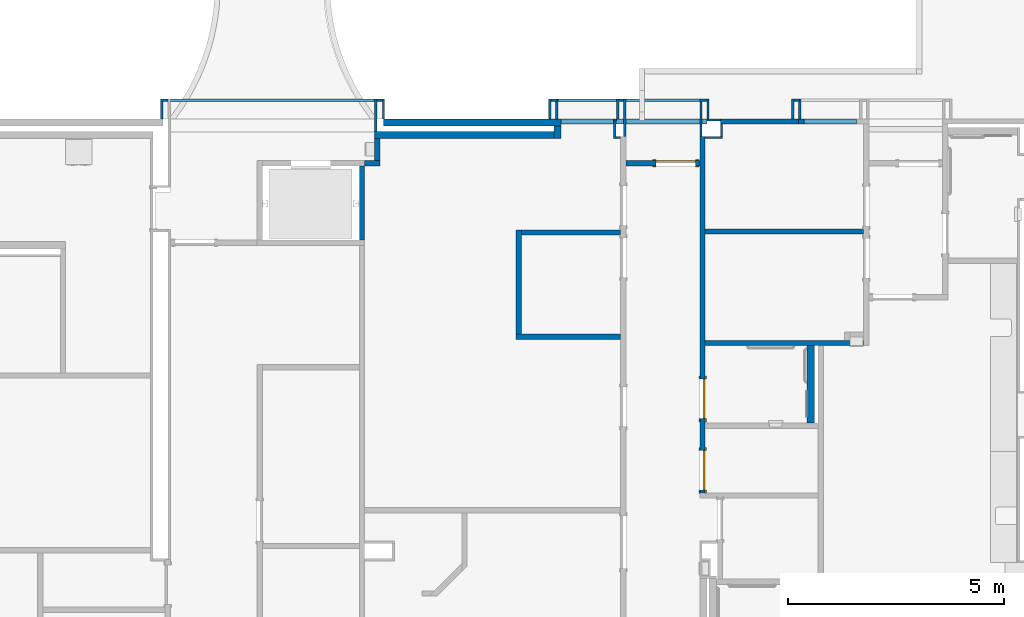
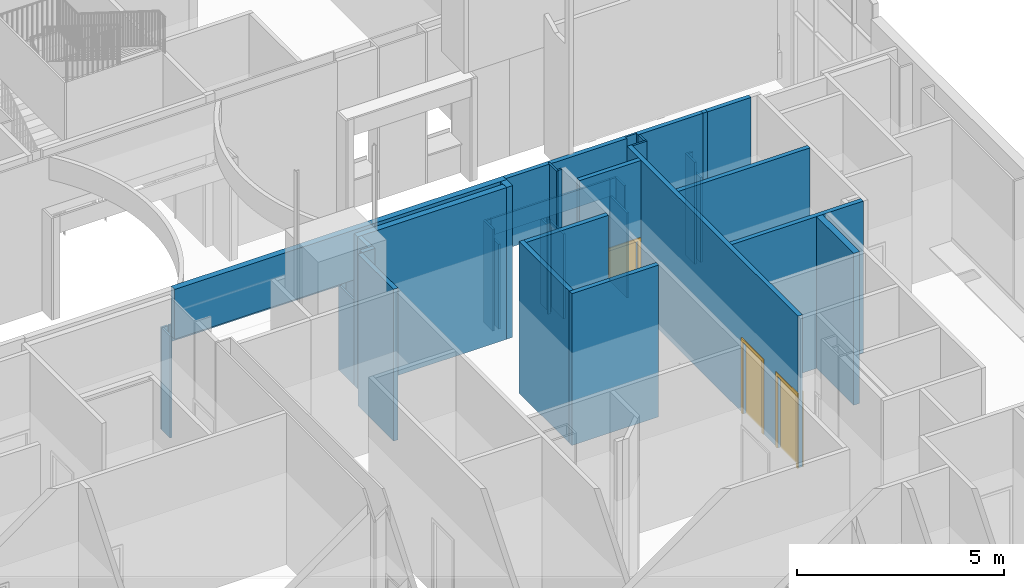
# One storey, part 36 of 82: 43 walls, 3 doors, 4 openings.
"""IFC2X3 building model written with IfcOpenShell, lengths in metres."""

from ifc_helpers import new_model, entity, si_unit, converted_unit, frame, frame_2d, origin, origin_2d_with_axis, place, context, project, spatial, polyline, rectangle, outline, extrude, clip, halfspace, source, transform, mapped, material, layer, layer_set, layer_usage, type_object, type_shapes, element, fill, save


model = new_model("IFC2X3")

# Units and contexts
model_context = context("Model", 3, precision=1e-09, world=origin())
plan_context = context("Plan", 3, precision=1e-09, world=origin())
ifc_project = project(units=[si_unit("LENGTHUNIT", "METRE"), si_unit("AREAUNIT", "SQUARE_METRE"), si_unit("VOLUMEUNIT", "CUBIC_METRE"), converted_unit("PLANEANGLEUNIT", "DEGREE", entity("IfcRatioMeasure", 0.01745329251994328), si_unit("PLANEANGLEUNIT", "RADIAN"), dimensions=[0, 0, 0, 0, 0, 0, 0]), si_unit("TIMEUNIT", "SECOND")], contexts=[model_context, plan_context])

# Site, building, storey
site_placement = place(None, origin())
site = spatial("IfcSite", under=ifc_project, at=site_placement, Name="Default", CompositionType="ELEMENT")
building_placement = place(site_placement, origin())
building = spatial("IfcBuilding", under=site, at=building_placement, CompositionType="ELEMENT")
storey_placement = place(building_placement, origin())
storey = spatial("IfcBuildingStorey", under=building, at=storey_placement, Name="First Floor", CompositionType="ELEMENT", Elevation=-3.531500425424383e-13)

# Wall, openings, doors
ifc_material_1 = material(Name="Plasterboard")
ifc_layer_1 = layer(ifc_material_1, 0.016)
ifc_material_2 = material(Name="Metal - Stud Layer")
ifc_layer_2 = layer(ifc_material_2, 0.092)
ifc_layer_3 = layer(ifc_material_1, 0.016)
ifc_layer_set_1 = layer_set([ifc_layer_1, ifc_layer_2, ifc_layer_3], Name="Basic Wall:Interior - Partition (92mm Stud)")
ifc_layer_usage_1 = layer_usage(ifc_layer_set_1, "AXIS2", "NEGATIVE", 0.062)
wall_1_placement = place(storey_placement, frame((-7.517975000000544, 19.95399999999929, 0.0), z_axis=(0.0, 0.0, 1.0), x_axis=(0.0, 1.0, 0.0)))
wall_1 = element("IfcWallStandardCase", 1, at=wall_1_placement, inside=storey, material=ifc_layer_usage_1, Name="Basic Wall:Interior - Partition (92mm Stud)", ObjectType="Basic Wall:Interior - Partition (92mm Stud)", context=model_context, shape_type="SweptSolid", body=[
    extrude(rectangle(XDim=8.250000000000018, YDim=0.124, at=frame_2d((4.125000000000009, 0.0), x_axis=(-1.0, 0.0))), origin(), (0.0, 0.0, 1.0), 4.46800000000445),
])
opening_1_placement = place(wall_1_placement, frame((2.630999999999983, 0.06200000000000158, 0.0)))
opening_1 = element("IfcOpeningElement", 2, at=opening_1_placement, cuts=wall_1, Name="M_Single-Flush:0915 x 2134mm:0915 x 2134mm:1", ObjectType="Opening", context=model_context, shape_type="SweptSolid", body=[
    extrude(rectangle(XDim=0.9149999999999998, YDim=2.134, at=frame_2d((1.067, 0.4575), x_axis=(0.0, 1.0))), frame((0.0, 0.0, 0.0), z_axis=(0.0, -1.0, 0.0), x_axis=(0.0, 0.0, 1.0)), (0.0, 0.0, 1.0), 0.124),
])
opening_2_placement = place(wall_1_placement, frame((0.9749999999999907, 0.06200000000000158, 0.0)))
opening_2 = element("IfcOpeningElement", 3, at=opening_2_placement, cuts=wall_1, Name="M_Single-Flush:0915 x 2134mm:0915 x 2134mm:1", ObjectType="Opening", context=model_context, shape_type="SweptSolid", body=[
    extrude(rectangle(XDim=0.9149999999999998, YDim=2.134, at=frame_2d((1.067, 0.4575), x_axis=(0.0, 1.0))), frame((0.0, 0.0, 0.0), z_axis=(0.0, -1.0, 0.0), x_axis=(0.0, 0.0, 1.0)), (0.0, 0.0, 1.0), 0.124),
])
door_style = type_object("IfcDoorStyle", Name="0915 x 2134mm", ConstructionType="NOTDEFINED", OperationType="SINGLE_SWING_RIGHT", ParameterTakesPrecedence=False, Sizeable=False)
shared_shape = source(origin(), model_context, "Body", "SweptSolid", [
    extrude(outline(polyline([(-0.5335, -1.123999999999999), (0.5334999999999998, -1.123999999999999), (0.5334999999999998, 1.086), (0.4574999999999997, 1.086), (0.4574999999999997, -1.048000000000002), (-0.4574999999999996, -1.048000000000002), (-0.4574999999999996, 1.086), (-0.5335, 1.086), (-0.5335, -1.123999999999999)])), frame((0.4575000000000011, 0.1239999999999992, 1.086), z_axis=(0.0, 1.0, 0.0), x_axis=(1.0, 0.0, 0.0)), (0.0, 0.0, 1.0), 0.02499999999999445),
    extrude(outline(polyline([(-1.123999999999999, -0.5334999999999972), (1.085999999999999, -0.5334999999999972), (1.085999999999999, -0.4575000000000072), (-1.048, -0.4575000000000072), (-1.048, 0.4575000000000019), (1.085999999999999, 0.4575000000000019), (1.085999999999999, 0.5335000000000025), (-1.123999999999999, 0.5335000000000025), (-1.123999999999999, -0.5334999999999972)])), frame((0.4575000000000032, -0.02500000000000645, 1.085999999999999), z_axis=(0.0, 1.0, 0.0), x_axis=(0.0, 0.0, -1.0)), (0.0, 0.0, 1.0), 0.02500000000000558),
    extrude(rectangle(XDim=0.051, YDim=0.9149999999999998, at=origin_2d_with_axis()), frame((0.4575000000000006, 0.09849999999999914, 0.0), z_axis=(0.0, 0.0, 1.0), x_axis=(0.0, 1.0, 0.0)), (0.0, 0.0, 1.0), 2.133999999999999),
])
type_shapes(door_style, [shared_shape])
door_1_placement = place(opening_2_placement, frame((0.0, 0.0, 0.0), z_axis=(0.0, 0.0, 1.0), x_axis=(-1.0, 0.0, 0.0)))
door_1 = element("IfcDoor", 4, at=door_1_placement, inside=storey, type_object=door_style, Name="M_Single-Flush:0915 x 2134mm:0915 x 2134mm", ObjectType="0915 x 2134mm", OverallHeight=2.134, OverallWidth=0.9149999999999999, context=model_context, shape_type="MappedRepresentation", body=[
    mapped(shared_shape, transform((0.0, 0.0, 0.0), scale=1.0)),
])
fill(opening_2, door_1)
door_2_placement = place(opening_1_placement, frame((0.0, 0.0, 0.0), z_axis=(0.0, 0.0, 1.0), x_axis=(-1.0, 0.0, 0.0)))
door_2 = element("IfcDoor", 5, at=door_2_placement, inside=storey, type_object=door_style, Name="M_Single-Flush:0915 x 2134mm:0915 x 2134mm", ObjectType="0915 x 2134mm", OverallHeight=2.134, OverallWidth=0.9149999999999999, context=model_context, shape_type="MappedRepresentation", body=[
    mapped(shared_shape, transform((0.0, 0.0, 0.0), scale=1.0)),
])
fill(opening_1, door_2)

# Wall, opening
ifc_layer_4 = layer(ifc_material_2, 0.152)
ifc_layer_5 = layer(ifc_material_1, 0.016)
ifc_layer_set_2 = layer_set([ifc_layer_4, ifc_layer_5], Name="Basic Wall:Interior - Furring (152 mm Stud)")
ifc_layer_usage_2 = layer_usage(ifc_layer_set_2, "AXIS2", "POSITIVE", -0.08399999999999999)
wall_2_placement = place(storey_placement, frame((-20.03300000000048, 28.52599999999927, 0.0)))
wall_2 = element("IfcWallStandardCase", 6, at=wall_2_placement, inside=storey, material=ifc_layer_usage_2, Name="Basic Wall:Interior - Furring (152 mm Stud)", ObjectType="Basic Wall:Interior - Furring (152 mm Stud)", context=model_context, shape_type="Clipping", body=[
    clip(extrude(rectangle(XDim=9.241151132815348, YDim=0.1679999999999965, at=frame_2d((4.620575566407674, 0.0), x_axis=(-1.0, 0.0))), origin(), (0.0, 0.0, 1.0), 4.468000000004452), halfspace(frame((5.130999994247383, 0.0, 0.0), z_axis=(-0.5047390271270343, 0.0, -0.8632719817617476), x_axis=(0.0, -1.0, 0.0)), False)),
])
opening_3_placement = place(wall_2_placement, frame((3.420666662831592, 0.0839999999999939, 2.0)))
element("IfcOpeningElement", 7, at=opening_3_placement, cuts=wall_2, Name="Basic Wall:Interior - Furring (152 mm Stud):2", ObjectType="Opening", context=model_context, shape_type="SweptSolid", body=[
    extrude(outline(polyline([(-2.0, -1.710333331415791), (1.0, -1.710333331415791), (1.0, 3.420666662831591), (-2.0, -1.710333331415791)])), frame((0.0, 0.0, 0.0), z_axis=(0.0, -1.0, 0.0), x_axis=(0.0, 0.0, 1.0)), (0.0, 0.0, 1.0), 0.168),
])

# Walls
wall_3_placement = place(storey_placement, frame((-3.793975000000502, 23.42199999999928, 0.0), z_axis=(0.0, 0.0, 1.0), x_axis=(-1.0, 0.0, 0.0)))
element("IfcWallStandardCase", 8, at=wall_3_placement, inside=storey, material=ifc_layer_usage_1, Name="Basic Wall:Interior - Partition (92mm Stud)", ObjectType="Basic Wall:Interior - Partition (92mm Stud)", context=model_context, shape_type="SweptSolid", body=[
    extrude(rectangle(XDim=3.662000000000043, YDim=0.1239999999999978, at=frame_2d((1.831000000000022, 0.0), x_axis=(-1.0, 0.0))), origin(), (0.0, 0.0, 1.0), 4.46800000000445),
])
wall_4_placement = place(storey_placement, frame((-5.270722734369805, 28.54799999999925, 0.0), z_axis=(0.0, 0.0, 1.0), x_axis=(-1.0, 0.0, 0.0)))
element("IfcWallStandardCase", 9, at=wall_4_placement, inside=storey, material=ifc_layer_usage_1, Name="Basic Wall:Interior - Partition (92mm Stud)", ObjectType="Basic Wall:Interior - Partition (92mm Stud)", context=model_context, shape_type="SweptSolid", body=[
    extrude(rectangle(XDim=1.806277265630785, YDim=0.1240000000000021, at=frame_2d((0.9301386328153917, 0.0), x_axis=(-1.0, 0.0))), origin(), (0.0, 0.0, 1.0), 4.468000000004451),
])
ifc_material_3 = material(Name="Type-X Plasterboard")
ifc_layer_6 = layer(ifc_material_3, 0.016)
ifc_layer_7 = layer(ifc_material_2, 0.092)
ifc_layer_8 = layer(ifc_material_3, 0.016)
ifc_layer_set_3 = layer_set([ifc_layer_6, ifc_layer_7, ifc_layer_8], Name="Basic Wall:Interior - Rated 1-HR (92mm Stud)")
ifc_layer_usage_3 = layer_usage(ifc_layer_set_3, "AXIS2", "NEGATIVE", 0.06200000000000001)
wall_5_placement = place(storey_placement, frame((-15.39800000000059, 25.80739999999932, 0.0), z_axis=(0.0, 0.0, 1.0), x_axis=(0.0, 1.0, 0.0)))
element("IfcWallStandardCase", 10, at=wall_5_placement, inside=storey, material=ifc_layer_usage_3, Name="Basic Wall:Interior - Rated 1-HR (92mm Stud)", ObjectType="Basic Wall:Interior - Rated 1-HR (92mm Stud)", context=model_context, shape_type="SweptSolid", body=[
    extrude(rectangle(XDim=1.714499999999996, YDim=0.1240000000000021, at=frame_2d((0.8572499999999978, 0.0), x_axis=(-1.0, 0.0))), origin(), (0.0, 0.0, 1.0), 4.46800000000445),
])
ifc_layer_9 = layer(ifc_material_2, 0.038)
ifc_layer_10 = layer(ifc_material_1, 0.016)
ifc_layer_set_4 = layer_set([ifc_layer_9, ifc_layer_10], Name="Basic Wall:Interior - Furring (38 mm Stud)")
ifc_layer_usage_4 = layer_usage(ifc_layer_set_4, "AXIS2", "POSITIVE", -0.027)
wall_6_placement = place(storey_placement, frame((-7.418975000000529, 28.58299999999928, 0.0)))
element("IfcWallStandardCase", 11, at=wall_6_placement, inside=storey, material=ifc_layer_usage_4, Name="Basic Wall:Interior - Furring (38 mm Stud)", ObjectType="Basic Wall:Interior - Furring (38 mm Stud)", context=model_context, shape_type="SweptSolid", body=[
    extrude(rectangle(XDim=0.3149749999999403, YDim=0.05400000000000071, at=frame_2d((0.1574874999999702, 0.0), x_axis=(-1.0, 0.0))), origin(), (0.0, 0.0, 1.0), 4.46800000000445),
])
wall_7_placement = place(storey_placement, frame((-19.85700000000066, 29.04299999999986, 2.5)))
element("IfcWallStandardCase", 12, at=wall_7_placement, inside=storey, material=ifc_layer_usage_4, Name="Basic Wall:Interior - Furring (38 mm Stud)", ObjectType="Basic Wall:Interior - Furring (38 mm Stud)", context=model_context, shape_type="SweptSolid", body=[
    extrude(rectangle(XDim=4.77399999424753, YDim=0.05399999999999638, at=frame_2d((2.386999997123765, 0.0), x_axis=(-1.0, 0.0))), origin(), (0.0, 0.0, 1.0), 0.5),
])
wall_8_placement = place(storey_placement, frame((-7.391975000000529, 28.54799999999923, 2.4), z_axis=(0.0, 0.0, 1.0), x_axis=(-1.0, 0.0, 0.0)))
element("IfcWallStandardCase", 13, at=wall_8_placement, inside=storey, material=ifc_layer_usage_1, Name="Basic Wall:Interior - Partition (92mm Stud)", ObjectType="Basic Wall:Interior - Partition (92mm Stud)", context=model_context, shape_type="SweptSolid", body=[
    extrude(rectangle(XDim=3.372873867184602, YDim=0.1240000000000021, at=frame_2d((1.713436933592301, 0.0), x_axis=(-1.0, 0.0))), origin(), (0.0, 0.0, 1.0), 2.06800000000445),
])
wall_9_placement = place(storey_placement, frame((-10.89072273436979, 29.06999999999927, 0.0), z_axis=(0.0, 0.0, 1.0), x_axis=(0.0, -1.0, 0.0)))
element("IfcWallStandardCase", 14, at=wall_9_placement, inside=storey, material=ifc_layer_usage_4, Name="Basic Wall:Interior - Furring (38 mm Stud)", ObjectType="Basic Wall:Interior - Furring (38 mm Stud)", context=model_context, shape_type="SweptSolid", body=[
    extrude(rectangle(XDim=0.4600000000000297, YDim=0.05400000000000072, at=frame_2d((0.2300000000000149, 0.0), x_axis=(-1.0, 0.0))), origin(), (0.0, 0.0, 1.0), 2.5),
])
wall_10_placement = place(storey_placement, frame((-15.08300000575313, 28.31799999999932, 0.0), z_axis=(0.0, 0.0, 1.0), x_axis=(0.0, 1.0, 0.0)))
element("IfcWallStandardCase", 15, at=wall_10_placement, inside=storey, material=ifc_layer_usage_4, Name="Basic Wall:Interior - Furring (38 mm Stud)", ObjectType="Basic Wall:Interior - Furring (38 mm Stud)", context=model_context, shape_type="SweptSolid", body=[
    extrude(rectangle(XDim=0.7519999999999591, YDim=0.05400000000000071, at=frame_2d((0.3759999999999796, 0.0), x_axis=(-1.0, 0.0))), origin(), (0.0, 0.0, 1.0), 2.5),
])
ifc_layer_usage_5 = layer_usage(ifc_layer_set_4, "AXIS2", "NEGATIVE", 0.027)
wall_11_placement = place(storey_placement, frame((-7.552975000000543, 29.01599999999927, 0.0), z_axis=(0.0, 0.0, 1.0), x_axis=(0.0, -1.0, 0.0)))
element("IfcWallStandardCase", 16, at=wall_11_placement, inside=storey, material=ifc_layer_usage_5, Name="Basic Wall:Interior - Furring (38 mm Stud)", ObjectType="Basic Wall:Interior - Furring (38 mm Stud)", context=model_context, shape_type="SweptSolid", body=[
    extrude(rectangle(XDim=0.8119999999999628, YDim=0.05400000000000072, at=frame_2d((0.4059999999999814, 0.0), x_axis=(-1.0, 0.0))), origin(), (0.0, 0.0, 1.0), 2.5),
])
wall_12_placement = place(storey_placement, frame((-10.89072273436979, 29.04299999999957, 2.5)))
element("IfcWallStandardCase", 17, at=wall_12_placement, inside=storey, material=ifc_layer_usage_4, Name="Basic Wall:Interior - Furring (38 mm Stud)", ObjectType="Basic Wall:Interior - Furring (38 mm Stud)", context=model_context, shape_type="SweptSolid", body=[
    extrude(rectangle(XDim=3.337747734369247, YDim=0.05399999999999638, at=frame_2d((1.668873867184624, 0.0), x_axis=(-1.0, 0.0))), origin(), (0.0, 0.0, 1.0), 0.5),
])
wall_13_placement = place(storey_placement, frame((-15.04797500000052, 27.64589999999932, 0.0), z_axis=(0.0, 0.0, 1.0), x_axis=(0.0, 1.0, 0.0)))
element("IfcWallStandardCase", 18, at=wall_13_placement, inside=storey, material=ifc_layer_usage_1, Name="Basic Wall:Interior - Partition (92mm Stud)", ObjectType="Basic Wall:Interior - Partition (92mm Stud)", context=model_context, shape_type="SweptSolid", body=[
    extrude(rectangle(XDim=0.5041000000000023, YDim=0.1240000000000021, at=frame_2d((0.2520500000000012, 0.0), x_axis=(-1.0, 0.0))), origin(), (0.0, 0.0, 1.0), 4.46800000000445),
])
wall_14_placement = place(storey_placement, frame((-15.33600000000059, 27.58389999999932, 0.0)))
element("IfcWallStandardCase", 19, at=wall_14_placement, inside=storey, material=ifc_layer_usage_1, Name="Basic Wall:Interior - Partition (92mm Stud)", ObjectType="Basic Wall:Interior - Partition (92mm Stud)", context=model_context, shape_type="SweptSolid", body=[
    extrude(rectangle(XDim=0.3500250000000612, YDim=0.1239999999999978, at=frame_2d((0.1750125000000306, 0.0), x_axis=(-1.0, 0.0))), origin(), (0.0, 0.0, 1.0), 4.46800000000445),
])
wall_15_placement = place(storey_placement, frame((-10.87584886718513, 28.44199999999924, 0.0), z_axis=(0.0, 0.0, 1.0), x_axis=(0.0, -1.0, 0.0)))
element("IfcWallStandardCase", 20, at=wall_15_placement, inside=storey, material=ifc_layer_usage_2, Name="Basic Wall:Interior - Furring (152 mm Stud)", ObjectType="Basic Wall:Interior - Furring (152 mm Stud)", context=model_context, shape_type="SweptSolid", body=[
    extrude(rectangle(XDim=0.2919999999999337, YDim=0.1680000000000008, at=frame_2d((0.1459999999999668, 0.0), x_axis=(-1.0, 0.0))), origin(), (0.0, 0.0, 1.0), 4.46800000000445),
])
wall_16_placement = place(storey_placement, frame((-5.270722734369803, 29.06999999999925, 0.0), z_axis=(0.0, 0.0, 1.0), x_axis=(0.0, -1.0, 0.0)))
element("IfcWallStandardCase", 21, at=wall_16_placement, inside=storey, material=ifc_layer_usage_4, Name="Basic Wall:Interior - Furring (38 mm Stud)", ObjectType="Basic Wall:Interior - Furring (38 mm Stud)", context=model_context, shape_type="SweptSolid", body=[
    extrude(rectangle(XDim=0.4600000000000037, YDim=0.05400000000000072, at=frame_2d((0.2300000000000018, 0.0), x_axis=(-1.0, 0.0))), origin(), (0.0, 0.0, 1.0), 2.5),
])
wall_17_placement = place(storey_placement, frame((-5.404722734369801, 29.04299999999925, 0.0)))
element("IfcWallStandardCase", 22, at=wall_17_placement, inside=storey, material=ifc_layer_usage_4, Name="Basic Wall:Interior - Furring (38 mm Stud)", ObjectType="Basic Wall:Interior - Furring (38 mm Stud)", context=model_context, shape_type="SweptSolid", body=[
    extrude(rectangle(XDim=0.1339999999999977, YDim=0.05399999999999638, at=frame_2d((0.06699999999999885, 0.0), x_axis=(-1.0, 0.0))), origin(), (0.0, 0.0, 1.0), 3.0),
])
wall_18_placement = place(storey_placement, frame((-7.07700000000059, 28.20399999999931, 0.0), z_axis=(0.0, 0.0, 1.0), x_axis=(0.0, 1.0, 0.0)))
element("IfcWallStandardCase", 23, at=wall_18_placement, inside=storey, material=ifc_layer_usage_5, Name="Basic Wall:Interior - Furring (38 mm Stud)", ObjectType="Basic Wall:Interior - Furring (38 mm Stud)", context=model_context, shape_type="SweptSolid", body=[
    extrude(rectangle(XDim=0.2819999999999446, YDim=0.05400000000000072, at=frame_2d((0.1409999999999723, 0.0), x_axis=(-1.0, 0.0))), origin(), (0.0, 0.0, 1.0), 4.46800000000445),
])

# Wall, opening, door
wall_19_placement = place(storey_placement, frame((-7.579975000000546, 27.58199999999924, 0.0), z_axis=(0.0, 0.0, 1.0), x_axis=(-1.0, 0.0, 0.0)))
wall_19 = element("IfcWallStandardCase", 24, at=wall_19_placement, inside=storey, material=ifc_layer_usage_1, Name="Basic Wall:Interior - Partition (92mm Stud)", ObjectType="Basic Wall:Interior - Partition (92mm Stud)", context=model_context, shape_type="SweptSolid", body=[
    extrude(rectangle(XDim=1.709999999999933, YDim=0.1239999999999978, at=frame_2d((0.8549999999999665, 0.0), x_axis=(-1.0, 0.0))), origin(), (0.0, 0.0, 1.0), 4.46800000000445),
])
opening_4_placement = place(wall_19_placement, frame((1.015000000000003, 0.0619999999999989, 0.0)))
opening_4 = element("IfcOpeningElement", 25, at=opening_4_placement, cuts=wall_19, Name="M_Single-Flush:0915 x 2134mm:0915 x 2134mm:1", ObjectType="Opening", context=model_context, shape_type="SweptSolid", body=[
    extrude(rectangle(XDim=0.9150000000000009, YDim=2.134, at=frame_2d((1.067, 0.4575), x_axis=(0.0, 1.0))), frame((0.0, 0.0, 0.0), z_axis=(0.0, -1.0, 0.0), x_axis=(0.0, 0.0, 1.0)), (0.0, 0.0, 1.0), 0.124),
])
door_3_placement = place(opening_4_placement, frame((0.0, 0.0, 0.0), z_axis=(0.0, 0.0, 1.0), x_axis=(-1.0, 0.0, 0.0)))
door_3 = element("IfcDoor", 26, at=door_3_placement, inside=storey, type_object=door_style, Name="M_Single-Flush:0915 x 2134mm:0915 x 2134mm", ObjectType="0915 x 2134mm", OverallHeight=2.134, OverallWidth=0.9149999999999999, context=model_context, shape_type="MappedRepresentation", body=[
    mapped(shared_shape, transform((0.0, 0.0, 0.0), scale=1.0)),
])
fill(opening_4, door_3)

# Walls
wall_20_placement = place(storey_placement, frame((-7.455975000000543, 28.17699999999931, 0.0)))
element("IfcWallStandardCase", 27, at=wall_20_placement, inside=storey, material=ifc_layer_usage_5, Name="Basic Wall:Interior - Furring (38 mm Stud)", ObjectType="Basic Wall:Interior - Furring (38 mm Stud)", context=model_context, shape_type="SweptSolid", body=[
    extrude(rectangle(XDim=0.4059749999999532, YDim=0.05399999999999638, at=frame_2d((0.2029874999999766, 0.0), x_axis=(-1.0, 0.0))), origin(), (0.0, 0.0, 1.0), 4.46800000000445),
])
wall_21_placement = place(storey_placement, frame((-7.391975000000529, 28.60999999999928, 0.0), z_axis=(0.0, 0.0, 1.0), x_axis=(0.0, 1.0, 0.0)))
element("IfcWallStandardCase", 28, at=wall_21_placement, inside=storey, material=ifc_layer_usage_5, Name="Basic Wall:Interior - Furring (38 mm Stud)", ObjectType="Basic Wall:Interior - Furring (38 mm Stud)", context=model_context, shape_type="SweptSolid", body=[
    extrude(rectangle(XDim=0.4599999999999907, YDim=0.05400000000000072, at=frame_2d((0.2299999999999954, 0.0), x_axis=(-1.0, 0.0))), origin(), (0.0, 0.0, 1.0), 3.0),
])
wall_22_placement = place(storey_placement, frame((-15.08300000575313, 29.04299999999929, 0.0)))
element("IfcWallStandardCase", 29, at=wall_22_placement, inside=storey, material=ifc_layer_usage_4, Name="Basic Wall:Interior - Furring (38 mm Stud)", ObjectType="Basic Wall:Interior - Furring (38 mm Stud)", context=model_context, shape_type="SweptSolid", body=[
    extrude(rectangle(XDim=0.1270000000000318, YDim=0.05400000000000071, at=frame_2d((0.09050000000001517, 0.0), x_axis=(-1.0, 0.0))), origin(), (0.0, 0.0, 1.0), 3.0),
])
wall_23_placement = place(storey_placement, frame((-5.297722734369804, 28.54799999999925, 0.0)))
element("IfcWallStandardCase", 30, at=wall_23_placement, inside=storey, material=ifc_layer_usage_1, Name="Basic Wall:Interior - Partition (92mm Stud)", ObjectType="Basic Wall:Interior - Partition (92mm Stud)", context=model_context, shape_type="SweptSolid", body=[
    extrude(rectangle(XDim=0.1258700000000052, YDim=0.1240000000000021, at=frame_2d((0.06293500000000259, 0.0), x_axis=(-1.0, 0.0))), origin(), (0.0, 0.0, 1.0), 4.46800000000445),
])
wall_24_placement = place(storey_placement, frame((-7.418975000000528, 29.04299999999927, 0.0), z_axis=(0.0, 0.0, 1.0), x_axis=(-1.0, 0.0, 0.0)))
element("IfcWallStandardCase", 31, at=wall_24_placement, inside=storey, material=ifc_layer_usage_5, Name="Basic Wall:Interior - Furring (38 mm Stud)", ObjectType="Basic Wall:Interior - Furring (38 mm Stud)", context=model_context, shape_type="SweptSolid", body=[
    extrude(rectangle(XDim=0.1610000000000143, YDim=0.05399999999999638, at=frame_2d((0.08050000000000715, 0.0), x_axis=(-1.0, 0.0))), origin(), (0.0, 0.0, 1.0), 3.0),
])
wall_25_placement = place(storey_placement, frame((-19.85700000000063, 29.04299999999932, 0.0), z_axis=(0.0, 0.0, 1.0), x_axis=(-1.0, 0.0, 0.0)))
element("IfcWallStandardCase", 32, at=wall_25_placement, inside=storey, material=ifc_layer_usage_5, Name="Basic Wall:Interior - Furring (38 mm Stud)", ObjectType="Basic Wall:Interior - Furring (38 mm Stud)", context=model_context, shape_type="SweptSolid", body=[
    extrude(rectangle(XDim=0.1759999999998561, YDim=0.05400000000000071, at=frame_2d((0.1149999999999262, 0.0), x_axis=(-1.0, 0.0))), origin(), (0.0, 0.0, 1.0), 3.0),
])
wall_26_placement = place(storey_placement, frame((-20.03300000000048, 29.01599999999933, 0.0), z_axis=(0.0, 0.0, 1.0), x_axis=(0.0, -1.0, 0.0)))
element("IfcWallStandardCase", 33, at=wall_26_placement, inside=storey, material=ifc_layer_usage_5, Name="Basic Wall:Interior - Furring (38 mm Stud)", ObjectType="Basic Wall:Interior - Furring (38 mm Stud)", context=model_context, shape_type="SweptSolid", body=[
    extrude(rectangle(XDim=0.4060000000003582, YDim=0.05399999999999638, at=frame_2d((0.2030000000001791, 0.0), x_axis=(-1.0, 0.0))), origin(), (0.0, 0.0, 1.0), 3.0),
])
wall_27_placement = place(storey_placement, frame((-11.76797500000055, 23.62400042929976, 0.0), z_axis=(0.0, 0.0, 1.0), x_axis=(0.0, 1.0, 0.0)))
element("IfcWallStandardCase", 34, at=wall_27_placement, inside=storey, material=ifc_layer_usage_1, Name="Basic Wall:Interior - Partition (92mm Stud)", ObjectType="Basic Wall:Interior - Partition (92mm Stud)", context=model_context, shape_type="SweptSolid", body=[
    extrude(rectangle(XDim=2.415999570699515, YDim=0.1240000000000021, at=frame_2d((1.207999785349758, 0.0), x_axis=(-1.0, 0.0))), origin(), (0.0, 0.0, 1.0), 4.468000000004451),
])
wall_28_placement = place(storey_placement, frame((-11.02472273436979, 29.04299999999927, 0.0)))
element("IfcWallStandardCase", 35, at=wall_28_placement, inside=storey, material=ifc_layer_usage_4, Name="Basic Wall:Interior - Furring (38 mm Stud)", ObjectType="Basic Wall:Interior - Furring (38 mm Stud)", context=model_context, shape_type="SweptSolid", body=[
    extrude(rectangle(XDim=0.1339999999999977, YDim=0.05399999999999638, at=frame_2d((0.06699999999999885, 0.0), x_axis=(-1.0, 0.0))), origin(), (0.0, 0.0, 1.0), 3.0),
])
wall_29_placement = place(storey_placement, frame((-10.95984886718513, 28.23399999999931, 0.0), z_axis=(0.0, 0.0, 1.0), x_axis=(-1.0, 0.0, 0.0)))
element("IfcWallStandardCase", 36, at=wall_29_placement, inside=storey, material=ifc_layer_usage_2, Name="Basic Wall:Interior - Furring (152 mm Stud)", ObjectType="Basic Wall:Interior - Furring (152 mm Stud)", context=model_context, shape_type="SweptSolid", body=[
    extrude(rectangle(XDim=4.150151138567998, YDim=0.1679999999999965, at=frame_2d((2.075075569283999, 0.0), x_axis=(-1.0, 0.0))), origin(), (0.0, 0.0, 1.0), 4.46800000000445),
])
wall_30_placement = place(storey_placement, frame((-3.956852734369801, 28.54799999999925, 2.4), z_axis=(0.0, 0.0, 1.0), x_axis=(-1.0, 0.0, 0.0)))
element("IfcWallStandardCase", 37, at=wall_30_placement, inside=storey, material=ifc_layer_usage_1, Name="Basic Wall:Interior - Partition (92mm Stud)", ObjectType="Basic Wall:Interior - Partition (92mm Stud)", context=model_context, shape_type="SweptSolid", body=[
    extrude(rectangle(XDim=1.214999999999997, YDim=0.1239999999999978, at=frame_2d((0.6074999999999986, 0.0), x_axis=(-1.0, 0.0))), origin(), (0.0, 0.0, 1.0), 2.06800000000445),
])
wall_31_placement = place(storey_placement, frame((-9.413975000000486, 23.56200042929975, 0.0), z_axis=(0.0, 0.0, 1.0), x_axis=(-1.0, 0.0, 0.0)))
element("IfcWallStandardCase", 38, at=wall_31_placement, inside=storey, material=ifc_layer_usage_1, Name="Basic Wall:Interior - Partition (92mm Stud)", ObjectType="Basic Wall:Interior - Partition (92mm Stud)", context=model_context, shape_type="SweptSolid", body=[
    extrude(rectangle(XDim=2.416000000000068, YDim=0.1239999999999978, at=frame_2d((1.208000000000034, 0.0), x_axis=(-1.0, 0.0))), origin(), (0.0, 0.0, 1.0), 4.46800000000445),
])
wall_32_placement = place(storey_placement, frame((-3.793975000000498, 26.00199999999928, 0.0), z_axis=(0.0, 0.0, 1.0), x_axis=(-1.0, 0.0, 0.0)))
element("IfcWallStandardCase", 39, at=wall_32_placement, inside=storey, material=ifc_layer_usage_1, Name="Basic Wall:Interior - Partition (92mm Stud)", ObjectType="Basic Wall:Interior - Partition (92mm Stud)", context=model_context, shape_type="SweptSolid", body=[
    extrude(rectangle(XDim=3.662000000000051, YDim=0.1239999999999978, at=frame_2d((1.831000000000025, 0.0), x_axis=(-1.0, 0.0))), origin(), (0.0, 0.0, 1.0), 4.46800000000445),
])
wall_33_placement = place(storey_placement, frame((-5.431722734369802, 28.60999999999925, 0.0), z_axis=(0.0, 0.0, 1.0), x_axis=(0.0, 1.0, 0.0)))
element("IfcWallStandardCase", 40, at=wall_33_placement, inside=storey, material=ifc_layer_usage_4, Name="Basic Wall:Interior - Furring (38 mm Stud)", ObjectType="Basic Wall:Interior - Furring (38 mm Stud)", context=model_context, shape_type="SweptSolid", body=[
    extrude(rectangle(XDim=0.4600000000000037, YDim=0.05400000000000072, at=frame_2d((0.2300000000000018, 0.0), x_axis=(-1.0, 0.0))), origin(), (0.0, 0.0, 1.0), 3.0),
])
wall_34_placement = place(storey_placement, frame((-9.549848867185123, 28.55599999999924, 0.0), z_axis=(0.0, 0.0, 1.0), x_axis=(0.0, -1.0, 0.0)))
element("IfcWallStandardCase", 41, at=wall_34_placement, inside=storey, material=ifc_layer_usage_5, Name="Basic Wall:Interior - Furring (38 mm Stud)", ObjectType="Basic Wall:Interior - Furring (38 mm Stud)", context=model_context, shape_type="SweptSolid", body=[
    extrude(rectangle(XDim=0.405999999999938, YDim=0.05400000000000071, at=frame_2d((0.202999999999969, 0.0), x_axis=(-1.0, 0.0))), origin(), (0.0, 0.0, 1.0), 4.468000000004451),
])
wall_35_placement = place(storey_placement, frame((-11.70597500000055, 25.97799999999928, 0.0)))
element("IfcWallStandardCase", 42, at=wall_35_placement, inside=storey, material=ifc_layer_usage_1, Name="Basic Wall:Interior - Partition (92mm Stud)", ObjectType="Basic Wall:Interior - Partition (92mm Stud)", context=model_context, shape_type="SweptSolid", body=[
    extrude(rectangle(XDim=2.292000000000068, YDim=0.1239999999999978, at=frame_2d((1.146000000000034, 0.0), x_axis=(-1.0, 0.0))), origin(), (0.0, 0.0, 1.0), 4.46800000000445),
])
wall_36_placement = place(storey_placement, frame((-9.47797500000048, 28.60999999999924, 0.0), z_axis=(0.0, 0.0, 1.0), x_axis=(0.0, 1.0, 0.0)))
element("IfcWallStandardCase", 43, at=wall_36_placement, inside=storey, material=ifc_layer_usage_4, Name="Basic Wall:Interior - Furring (38 mm Stud)", ObjectType="Basic Wall:Interior - Furring (38 mm Stud)", context=model_context, shape_type="SweptSolid", body=[
    extrude(rectangle(XDim=0.4600000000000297, YDim=0.05400000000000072, at=frame_2d((0.2300000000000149, 0.0), x_axis=(-1.0, 0.0))), origin(), (0.0, 0.0, 1.0), 2.5),
])
wall_37_placement = place(storey_placement, frame((-9.316975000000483, 29.06999999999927, 0.0), z_axis=(0.0, 0.0, 1.0), x_axis=(0.0, -1.0, 0.0)))
element("IfcWallStandardCase", 44, at=wall_37_placement, inside=storey, material=ifc_layer_usage_4, Name="Basic Wall:Interior - Furring (38 mm Stud)", ObjectType="Basic Wall:Interior - Furring (38 mm Stud)", context=model_context, shape_type="SweptSolid", body=[
    extrude(rectangle(XDim=0.8659999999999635, YDim=0.05400000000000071, at=frame_2d((0.4329999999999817, 0.0), x_axis=(-1.0, 0.0))), origin(), (0.0, 0.0, 1.0), 2.5),
])
wall_38_placement = place(storey_placement, frame((-9.522848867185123, 28.1769999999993, 0.0)))
element("IfcWallStandardCase", 45, at=wall_38_placement, inside=storey, material=ifc_layer_usage_5, Name="Basic Wall:Interior - Furring (38 mm Stud)", ObjectType="Basic Wall:Interior - Furring (38 mm Stud)", context=model_context, shape_type="SweptSolid", body=[
    extrude(rectangle(XDim=0.1088738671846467, YDim=0.05399999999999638, at=frame_2d((0.05443693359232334, 0.0), x_axis=(-1.0, 0.0))), origin(), (0.0, 0.0, 1.0), 4.46800000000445),
])
wall_39_placement = place(storey_placement, frame((-5.015975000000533, 21.56999999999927, 0.0), z_axis=(0.0, 0.0, 1.0), x_axis=(0.0, 1.0, 0.0)))
element("IfcWallStandardCase", 46, at=wall_39_placement, inside=storey, material=ifc_layer_usage_2, Name="Basic Wall:Interior - Furring (152 mm Stud)", ObjectType="Basic Wall:Interior - Furring (152 mm Stud)", context=model_context, shape_type="SweptSolid", body=[
    extrude(rectangle(XDim=1.790000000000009, YDim=0.1680000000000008, at=frame_2d((0.8950000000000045, 0.0), x_axis=(-1.0, 0.0))), origin(), (0.0, 0.0, 1.0), 4.46800000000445),
])
wall_40_placement = place(storey_placement, frame((-14.9020000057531, 29.06999999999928, 0.0), z_axis=(0.0, 0.0, 1.0), x_axis=(0.0, -1.0, 0.0)))
element("IfcWallStandardCase", 47, at=wall_40_placement, inside=storey, material=ifc_layer_usage_4, Name="Basic Wall:Interior - Furring (38 mm Stud)", ObjectType="Basic Wall:Interior - Furring (38 mm Stud)", context=model_context, shape_type="SweptSolid", body=[
    extrude(rectangle(XDim=0.4600000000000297, YDim=0.05400000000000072, at=frame_2d((0.2300000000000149, 0.0), x_axis=(-1.0, 0.0))), origin(), (0.0, 0.0, 1.0), 3.0),
])
wall_41_placement = place(storey_placement, frame((-9.45097500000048, 29.04299999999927, 0.0)))
element("IfcWallStandardCase", 48, at=wall_41_placement, inside=storey, material=ifc_layer_usage_4, Name="Basic Wall:Interior - Furring (38 mm Stud)", ObjectType="Basic Wall:Interior - Furring (38 mm Stud)", context=model_context, shape_type="SweptSolid", body=[
    extrude(rectangle(XDim=0.1069999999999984, YDim=0.05399999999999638, at=frame_2d((0.05349999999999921, 0.0), x_axis=(-1.0, 0.0))), origin(), (0.0, 0.0, 1.0), 2.5),
])
wall_42_placement = place(storey_placement, frame((-11.05172273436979, 28.60999999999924, 0.0), z_axis=(0.0, 0.0, 1.0), x_axis=(0.0, 1.0, 0.0)))
element("IfcWallStandardCase", 49, at=wall_42_placement, inside=storey, material=ifc_layer_usage_4, Name="Basic Wall:Interior - Furring (38 mm Stud)", ObjectType="Basic Wall:Interior - Furring (38 mm Stud)", context=model_context, shape_type="SweptSolid", body=[
    extrude(rectangle(XDim=0.4600000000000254, YDim=0.05400000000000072, at=frame_2d((0.2300000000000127, 0.0), x_axis=(-1.0, 0.0))), origin(), (0.0, 0.0, 1.0), 3.0),
])
wall_43_placement = place(storey_placement, frame((-9.50497500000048, 28.58299999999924, 0.0), z_axis=(0.0, 0.0, 1.0), x_axis=(-1.0, 0.0, 0.0)))
element("IfcWallStandardCase", 50, at=wall_43_placement, inside=storey, material=ifc_layer_usage_5, Name="Basic Wall:Interior - Furring (38 mm Stud)", ObjectType="Basic Wall:Interior - Furring (38 mm Stud)", context=model_context, shape_type="SweptSolid", body=[
    extrude(rectangle(XDim=0.0718738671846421, YDim=0.05399999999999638, at=frame_2d((0.03593693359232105, 0.0), x_axis=(-1.0, 0.0))), origin(), (0.0, 0.0, 1.0), 2.8),
])

save(model, "model.ifc")
